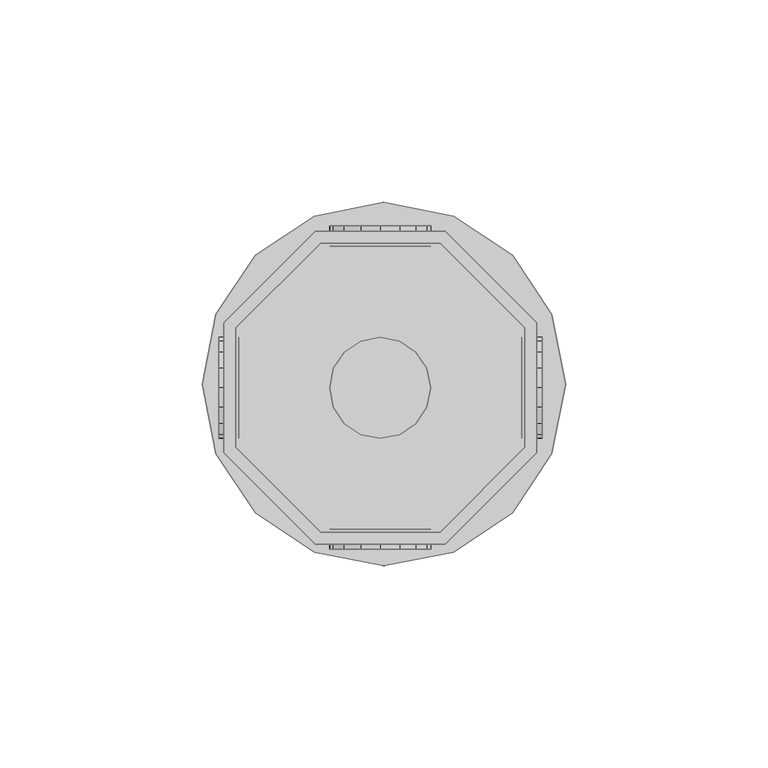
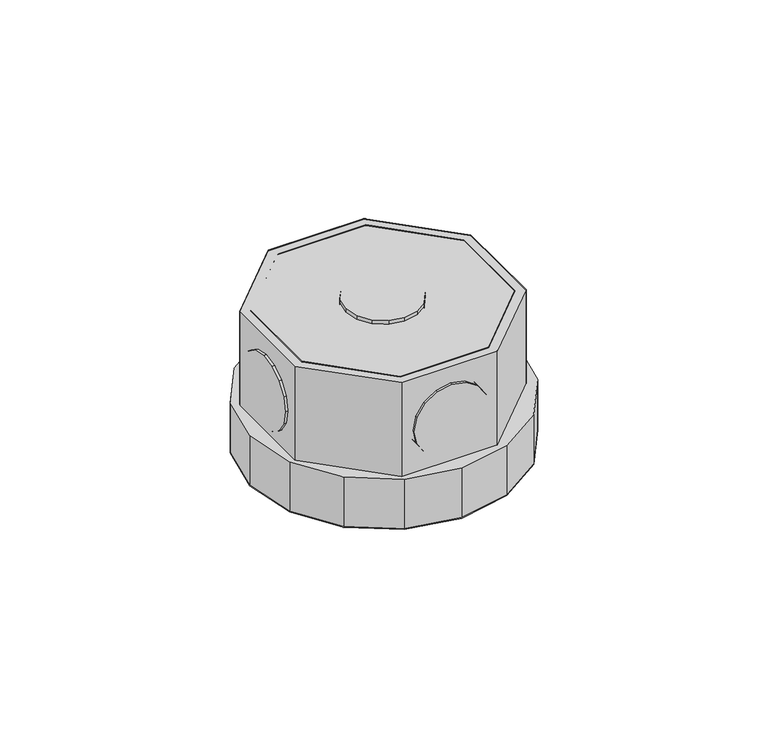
"""IFC4 building model written with IfcOpenShell, lengths in millimetres: light fixture geometry,  213486 :  213486."""

from ifc_helpers import new_model, si_unit, origin, place, context, project, spatial, triangles, source, transform, mapped, element, save


def light_fixture_b2880f95(model_context):
    return source(origin(), model_context, "Body", "Tessellation", [
        triangles([(10526.6004913, 18762.1001312, 2924.5999741), (10526.6004913, 18732.4996124, 2975.400071), (10526.6004913, 18732.4996124, 2924.5999741), (10526.6004913, 18762.1001312, 2975.400071), (10601.0994324, 18763.300058, 2924.5999741), (10601.0994324, 18731.1996918, 2975.400071), (10601.0994324, 18731.1996918, 2924.5999741), (10601.0994324, 18763.300058, 2975.400071), (10547.6003723, 18711.4997314, 2975.400071), (10547.6003723, 18711.4997314, 2924.5999741), (10578.3996552, 18785.9998352, 2924.5999741), (10578.3996552, 18785.9998352, 2975.400071), (10577.1997284, 18711.4997314, 2975.400071), (10577.1997284, 18711.4997314, 2924.5999741), (10546.3004517, 18785.9998352, 2924.5999741), (10546.3004517, 18785.9998352, 2975.400071), (10598.0996155, 18732.4996124, 2975.400071), (10598.0996155, 18732.4996124, 2924.5999741), (10523.5995117, 18763.300058, 2924.5999741), (10523.5995117, 18763.300058, 2975.400071), (10598.0996155, 18762.1001312, 2924.5999741), (10598.0996155, 18762.1001312, 2975.400071), (10523.5995117, 18731.1996918, 2975.400071), (10523.5995117, 18731.1996918, 2924.5999741), (10577.1997284, 18783.0000183, 2924.5999741), (10577.1997284, 18783.0000183, 2975.400071), (10546.3004517, 18708.4999146, 2975.400071), (10546.3004517, 18708.4999146, 2924.5999741), (10578.3996552, 18708.4999146, 2975.400071), (10547.6003723, 18783.0000183, 2975.400071), (10547.6003723, 18783.0000183, 2924.5999741), (10578.3996552, 18708.4999146, 2924.5999741), (10577.1997284, 18711.4997314, 2972.3999634), (10598.0996155, 18732.4996124, 2972.3999634), (10598.0996155, 18762.1001312, 2972.3999634), (10577.1997284, 18783.0000183, 2972.3999634), (10547.6003723, 18783.0000183, 2972.3999634), (10526.6004913, 18762.1001312, 2972.3999634), (10526.6004913, 18732.4996124, 2972.3999634), (10547.6003723, 18711.4997314, 2972.3999634), (10546.3004517, 18708.4999146, 2942.4000504), (10523.5995117, 18731.1996918, 2942.4000504), (10523.5995117, 18763.300058, 2942.4000504), (10546.3004517, 18785.9998352, 2942.4000504), (10578.3996552, 18785.9998352, 2942.4000504), (10601.0994324, 18763.300058, 2942.4000504), (10601.0994324, 18731.1996918, 2942.4000504), (10578.3996552, 18708.4999146, 2942.4000504), (10604.8003693, 18730.8997101, 2942.4000504), (10580.499527, 18706.6000305, 2942.4000504), (10595.0997986, 18716.2994385, 2942.4000504), (10563.3005768, 18703.200238, 2942.4000504), (10546.00047, 18706.6000305, 2942.4000504), (10531.4001984, 18716.2994385, 2942.4000504), (10521.6996277, 18730.8997101, 2942.4000504), (10518.2998352, 18748.1998169, 2942.4000504), (10521.6996277, 18765.3999298, 2942.4000504), (10546.00047, 18789.6996094, 2942.4000504), (10531.4001984, 18780.0002014, 2942.4000504), (10608.3001556, 18748.1998169, 2942.4000504), (10604.8003693, 18765.3999298, 2942.4000504), (10595.0997986, 18780.0002014, 2942.4000504), (10580.499527, 18789.6996094, 2942.4000504), (10563.3005768, 18793.2005585, 2942.4000504), (10580.499527, 18706.6000305, 2924.5999741), (10604.8003693, 18730.8997101, 2924.5999741), (10595.0997986, 18716.2994385, 2924.5999741), (10563.3005768, 18703.200238, 2924.5999741), (10546.00047, 18706.6000305, 2924.5999741), (10531.4001984, 18716.2994385, 2924.5999741), (10521.6996277, 18730.8997101, 2924.5999741), (10518.2998352, 18748.1998169, 2924.5999741), (10521.6996277, 18765.3999298, 2924.5999741), (10546.00047, 18789.6996094, 2924.5999741), (10531.4001984, 18780.0002014, 2924.5999741), (10608.3001556, 18748.1998169, 2924.5999741), (10604.8003693, 18765.3999298, 2924.5999741), (10595.0997986, 18780.0002014, 2924.5999741), (10580.499527, 18789.6996094, 2924.5999741), (10563.3005768, 18793.2005585, 2924.5999741), (10522.399585, 18735.7005798, 2952.6000092), (10522.399585, 18742.5001648, 2945.9001274), (10522.399585, 18738.400415, 2948.5999626), (10522.399585, 18734.799472, 2957.4000069), (10522.399585, 18747.2998718, 2944.8998978), (10522.399585, 18735.7005798, 2962.2000046), (10522.399585, 18752.0995789, 2945.9001274), (10522.399585, 18738.400415, 2966.2000511), (10522.399585, 18756.1004974, 2948.5999626), (10522.399585, 18742.5001648, 2968.8998863), (10522.399585, 18758.8003326, 2952.6000092), (10522.399585, 18747.2998718, 2969.900116), (10522.399585, 18759.8002716, 2957.4000069), (10522.399585, 18752.0995789, 2968.8998863), (10522.399585, 18758.8003326, 2962.2000046), (10522.399585, 18756.1004974, 2966.2000511), (10527.4004425, 18742.5001648, 2945.9001274), (10527.4004425, 18735.7005798, 2952.6000092), (10527.4004425, 18738.400415, 2948.5999626), (10527.4004425, 18747.2998718, 2944.8998978), (10527.4004425, 18734.799472, 2957.4000069), (10527.4004425, 18752.0995789, 2945.9001274), (10527.4004425, 18735.7005798, 2962.2000046), (10527.4004425, 18756.1004974, 2948.5999626), (10527.4004425, 18738.400415, 2966.2000511), (10527.4004425, 18742.5001648, 2968.8998863), (10527.4004425, 18758.8003326, 2952.6000092), (10527.4004425, 18747.2998718, 2969.900116), (10527.4004425, 18759.8002716, 2957.4000069), (10527.4004425, 18752.0995789, 2968.8998863), (10527.4004425, 18758.8003326, 2962.2000046), (10527.4004425, 18756.1004974, 2966.2000511), (10597.3996582, 18735.7005798, 2952.6000092), (10597.3996582, 18742.5001648, 2945.9001274), (10597.3996582, 18738.400415, 2948.5999626), (10597.3996582, 18734.799472, 2957.4000069), (10597.3996582, 18747.2998718, 2944.8998978), (10597.3996582, 18735.7005798, 2962.2000046), (10597.3996582, 18752.0995789, 2945.9001274), (10597.3996582, 18738.400415, 2966.2000511), (10597.3996582, 18756.1004974, 2948.5999626), (10597.3996582, 18742.5001648, 2968.8998863), (10597.3996582, 18758.8003326, 2952.6000092), (10597.3996582, 18747.2998718, 2969.900116), (10597.3996582, 18759.8002716, 2957.4000069), (10597.3996582, 18752.0995789, 2968.8998863), (10597.3996582, 18758.8003326, 2962.2000046), (10597.3996582, 18756.1004974, 2966.2000511), (10602.4005157, 18742.5001648, 2945.9001274), (10602.4005157, 18735.7005798, 2952.6000092), (10602.4005157, 18738.400415, 2948.5999626), (10602.4005157, 18747.2998718, 2944.8998978), (10602.4005157, 18734.799472, 2957.4000069), (10602.4005157, 18752.0995789, 2945.9001274), (10602.4005157, 18735.7005798, 2962.2000046), (10602.4005157, 18756.1004974, 2948.5999626), (10602.4005157, 18738.400415, 2966.2000511), (10602.4005157, 18742.5001648, 2968.8998863), (10602.4005157, 18758.8003326, 2952.6000092), (10602.4005157, 18747.2998718, 2969.900116), (10602.4005157, 18759.8002716, 2957.4000069), (10602.4005157, 18752.0995789, 2968.8998863), (10602.4005157, 18758.8003326, 2962.2000046), (10602.4005157, 18756.1004974, 2966.2000511), (10567.2003387, 18712.2996826, 2945.9001274), (10573.8999298, 18712.2996826, 2952.6000092), (10571.2000946, 18712.2996826, 2948.5999626), (10562.399469, 18712.2996826, 2944.8998978), (10574.8998688, 18712.2996826, 2957.4000069), (10557.599762, 18712.2996826, 2945.9001274), (10573.8999298, 18712.2996826, 2962.2000046), (10553.5000122, 18712.2996826, 2948.5999626), (10571.2000946, 18712.2996826, 2966.2000511), (10567.2003387, 18712.2996826, 2968.8998863), (10550.800177, 18712.2996826, 2952.6000092), (10562.399469, 18712.2996826, 2969.900116), (10549.9002319, 18712.2996826, 2957.4000069), (10557.599762, 18712.2996826, 2968.8998863), (10550.800177, 18712.2996826, 2962.2000046), (10553.5000122, 18712.2996826, 2966.2000511), (10573.8999298, 18707.2999878, 2952.6000092), (10567.2003387, 18707.2999878, 2945.9001274), (10571.2000946, 18707.2999878, 2948.5999626), (10574.8998688, 18707.2999878, 2957.4000069), (10562.399469, 18707.2999878, 2944.8998978), (10573.8999298, 18707.2999878, 2962.2000046), (10557.599762, 18707.2999878, 2945.9001274), (10571.2000946, 18707.2999878, 2966.2000511), (10553.5000122, 18707.2999878, 2948.5999626), (10567.2003387, 18707.2999878, 2968.8998863), (10550.800177, 18707.2999878, 2952.6000092), (10562.399469, 18707.2999878, 2969.900116), (10549.9002319, 18707.2999878, 2957.4000069), (10557.599762, 18707.2999878, 2968.8998863), (10550.800177, 18707.2999878, 2962.2000046), (10553.5000122, 18707.2999878, 2966.2000511), (10567.2003387, 18787.2997559, 2945.9001274), (10573.8999298, 18787.2997559, 2952.6000092), (10571.2000946, 18787.2997559, 2948.5999626), (10562.399469, 18787.2997559, 2944.8998978), (10574.8998688, 18787.2997559, 2957.4000069), (10557.599762, 18787.2997559, 2945.9001274), (10573.8999298, 18787.2997559, 2962.2000046), (10553.5000122, 18787.2997559, 2948.5999626), (10571.2000946, 18787.2997559, 2966.2000511), (10567.2003387, 18787.2997559, 2968.8998863), (10550.800177, 18787.2997559, 2952.6000092), (10562.399469, 18787.2997559, 2969.900116), (10549.9002319, 18787.2997559, 2957.4000069), (10557.599762, 18787.2997559, 2968.8998863), (10550.800177, 18787.2997559, 2962.2000046), (10553.5000122, 18787.2997559, 2966.2000511), (10573.8999298, 18782.300061, 2952.6000092), (10567.2003387, 18782.300061, 2945.9001274), (10571.2000946, 18782.300061, 2948.5999626), (10574.8998688, 18782.300061, 2957.4000069), (10562.399469, 18782.300061, 2944.8998978), (10573.8999298, 18782.300061, 2962.2000046), (10557.599762, 18782.300061, 2945.9001274), (10571.2000946, 18782.300061, 2966.2000511), (10553.5000122, 18782.300061, 2948.5999626), (10567.2003387, 18782.300061, 2968.8998863), (10550.800177, 18782.300061, 2952.6000092), (10562.399469, 18782.300061, 2969.900116), (10549.9002319, 18782.300061, 2957.4000069), (10557.599762, 18782.300061, 2968.8998863), (10550.800177, 18782.300061, 2962.2000046), (10553.5000122, 18782.300061, 2966.2000511), (10573.8999298, 18742.5001648, 2976.9999733), (10567.2003387, 18735.7005798, 2976.9999733), (10571.2000946, 18738.400415, 2976.9999733), (10562.399469, 18734.799472, 2976.9999733), (10574.8998688, 18747.2998718, 2976.9999733), (10557.599762, 18735.7005798, 2976.9999733), (10573.8999298, 18752.0995789, 2976.9999733), (10553.5000122, 18738.400415, 2976.9999733), (10571.2000946, 18756.1004974, 2976.9999733), (10550.800177, 18742.5001648, 2976.9999733), (10567.2003387, 18758.8003326, 2976.9999733), (10549.9002319, 18747.2998718, 2976.9999733), (10562.399469, 18759.8002716, 2976.9999733), (10550.800177, 18752.0995789, 2976.9999733), (10557.599762, 18758.8003326, 2976.9999733), (10553.5000122, 18756.1004974, 2976.9999733), (10567.2003387, 18735.7005798, 2971.9999878), (10573.8999298, 18742.5001648, 2971.9999878), (10571.2000946, 18738.400415, 2971.9999878), (10562.399469, 18734.799472, 2971.9999878), (10574.8998688, 18747.2998718, 2971.9999878), (10557.599762, 18735.7005798, 2971.9999878), (10573.8999298, 18752.0995789, 2971.9999878), (10553.5000122, 18738.400415, 2971.9999878), (10571.2000946, 18756.1004974, 2971.9999878), (10550.800177, 18742.5001648, 2971.9999878), (10567.2003387, 18758.8003326, 2971.9999878), (10549.9002319, 18747.2998718, 2971.9999878), (10562.399469, 18759.8002716, 2971.9999878), (10550.800177, 18752.0995789, 2971.9999878), (10557.599762, 18758.8003326, 2971.9999878), (10553.5000122, 18756.1004974, 2971.9999878)], [[1, 2, 3], [2, 1, 4], [5, 6, 7], [6, 5, 8], [3, 9, 10], [9, 3, 2], [11, 8, 5], [8, 11, 12], [10, 13, 14], [13, 10, 9], [15, 12, 11], [12, 15, 16], [14, 17, 18], [17, 14, 13], [19, 16, 15], [16, 19, 20], [17, 21, 18], [21, 17, 22], [23, 19, 24], [19, 23, 20], [22, 25, 21], [25, 22, 26], [27, 24, 28], [24, 27, 23], [6, 13, 29], [29, 13, 27], [27, 13, 9], [27, 9, 23], [23, 9, 2], [23, 2, 4], [23, 4, 20], [20, 4, 30], [8, 17, 6], [6, 17, 13], [17, 8, 22], [12, 22, 8], [22, 12, 26], [30, 26, 12], [16, 30, 12], [20, 30, 16], [30, 1, 31], [1, 30, 4], [6, 32, 7], [32, 6, 29], [32, 14, 7], [28, 14, 32], [14, 28, 10], [24, 10, 28], [10, 24, 3], [1, 3, 24], [19, 1, 24], [31, 1, 19], [7, 18, 5], [14, 18, 7], [5, 18, 21], [5, 21, 11], [11, 21, 25], [11, 25, 31], [11, 31, 15], [15, 31, 19], [26, 31, 25], [31, 26, 30], [29, 28, 32], [28, 29, 27], [17, 33, 34], [33, 17, 13], [35, 17, 34], [17, 35, 22], [36, 22, 35], [22, 36, 26], [37, 26, 36], [26, 37, 30], [38, 30, 37], [30, 38, 4], [2, 38, 39], [38, 2, 4], [17, 9, 13], [9, 17, 22], [9, 22, 2], [2, 22, 26], [2, 26, 4], [4, 26, 30], [13, 40, 33], [40, 13, 9], [40, 34, 33], [35, 34, 40], [35, 40, 39], [35, 39, 36], [36, 39, 38], [36, 38, 37], [9, 39, 40], [39, 9, 2], [24, 41, 28], [41, 24, 42], [19, 42, 24], [42, 19, 43], [44, 19, 15], [19, 44, 43], [45, 15, 11], [15, 45, 44], [46, 11, 5], [11, 46, 45], [47, 5, 7], [5, 47, 46], [32, 47, 7], [47, 32, 48], [28, 48, 32], [48, 28, 41], [49, 50, 51], [48, 50, 49], [50, 48, 52], [41, 52, 48], [52, 41, 53], [53, 41, 54], [42, 54, 41], [54, 42, 55], [55, 42, 43], [55, 43, 56], [56, 43, 57], [57, 43, 44], [57, 44, 58], [57, 58, 59], [47, 49, 60], [49, 47, 48], [47, 60, 46], [61, 46, 60], [46, 61, 62], [46, 62, 45], [45, 62, 63], [44, 45, 63], [44, 63, 64], [44, 64, 58], [65, 66, 67], [66, 65, 32], [68, 32, 65], [32, 68, 28], [28, 68, 69], [70, 28, 69], [28, 70, 24], [71, 24, 70], [19, 24, 71], [19, 71, 72], [73, 19, 72], [19, 73, 15], [74, 15, 73], [74, 73, 75], [76, 66, 7], [32, 7, 66], [5, 76, 7], [76, 5, 77], [77, 5, 78], [11, 78, 5], [78, 11, 79], [79, 11, 15], [79, 15, 80], [80, 15, 74], [57, 75, 73], [75, 57, 59], [56, 73, 72], [73, 56, 57], [55, 72, 71], [72, 55, 56], [54, 71, 70], [71, 54, 55], [53, 70, 69], [70, 53, 54], [52, 69, 68], [69, 52, 53], [50, 68, 65], [68, 50, 52], [51, 65, 67], [65, 51, 50], [66, 51, 67], [51, 66, 49], [76, 49, 66], [49, 76, 60], [77, 60, 76], [60, 77, 61], [78, 61, 77], [61, 78, 62], [79, 62, 78], [62, 79, 63], [80, 63, 79], [63, 80, 64], [75, 58, 74], [58, 75, 59], [74, 64, 80], [64, 74, 58], [81, 82, 83], [82, 81, 84], [85, 82, 84], [85, 84, 86], [87, 85, 86], [87, 86, 88], [87, 88, 89], [89, 88, 90], [89, 90, 91], [91, 90, 92], [91, 92, 93], [93, 92, 94], [93, 94, 95], [95, 94, 96], [97, 98, 99], [98, 97, 100], [101, 98, 100], [101, 100, 102], [103, 101, 102], [103, 102, 104], [103, 104, 105], [105, 104, 106], [106, 104, 107], [106, 107, 108], [108, 107, 109], [108, 109, 110], [110, 109, 111], [110, 111, 112], [87, 104, 102], [104, 87, 89], [85, 102, 100], [102, 85, 87], [82, 100, 97], [100, 82, 85], [83, 97, 99], [97, 83, 82], [98, 83, 99], [83, 98, 81], [101, 81, 98], [81, 101, 84], [103, 84, 101], [84, 103, 86], [105, 86, 103], [86, 105, 88], [106, 88, 105], [88, 106, 90], [108, 90, 106], [90, 108, 92], [110, 92, 108], [92, 110, 94], [112, 94, 110], [94, 112, 96], [95, 112, 111], [112, 95, 96], [93, 111, 109], [111, 93, 95], [89, 107, 104], [107, 89, 91], [91, 109, 107], [109, 91, 93], [113, 114, 115], [114, 113, 116], [117, 114, 116], [117, 116, 118], [119, 117, 118], [119, 118, 120], [119, 120, 121], [121, 120, 122], [121, 122, 123], [123, 122, 124], [123, 124, 125], [125, 124, 126], [125, 126, 127], [127, 126, 128], [129, 130, 131], [130, 129, 132], [133, 130, 132], [133, 132, 134], [135, 133, 134], [135, 134, 136], [135, 136, 137], [137, 136, 138], [138, 136, 139], [138, 139, 140], [140, 139, 141], [140, 141, 142], [142, 141, 143], [142, 143, 144], [119, 136, 134], [136, 119, 121], [117, 134, 132], [134, 117, 119], [114, 132, 129], [132, 114, 117], [115, 129, 131], [129, 115, 114], [130, 115, 131], [115, 130, 113], [133, 113, 130], [113, 133, 116], [135, 116, 133], [116, 135, 118], [137, 118, 135], [118, 137, 120], [138, 120, 137], [120, 138, 122], [140, 122, 138], [122, 140, 124], [142, 124, 140], [124, 142, 126], [144, 126, 142], [126, 144, 128], [127, 144, 143], [144, 127, 128], [125, 143, 141], [143, 125, 127], [121, 139, 136], [139, 121, 123], [123, 141, 139], [141, 123, 125], [145, 146, 147], [146, 145, 148], [149, 146, 148], [149, 148, 150], [151, 149, 150], [151, 150, 152], [151, 152, 153], [153, 152, 154], [154, 152, 155], [154, 155, 156], [156, 155, 157], [156, 157, 158], [158, 157, 159], [158, 159, 160], [161, 162, 163], [162, 161, 164], [165, 162, 164], [165, 164, 166], [167, 165, 166], [167, 166, 168], [169, 167, 168], [169, 168, 170], [169, 170, 171], [171, 170, 172], [171, 172, 173], [173, 172, 174], [173, 174, 175], [175, 174, 176], [158, 176, 174], [176, 158, 160], [156, 174, 172], [174, 156, 158], [154, 172, 170], [172, 154, 156], [153, 170, 168], [170, 153, 154], [151, 168, 166], [168, 151, 153], [149, 166, 164], [166, 149, 151], [146, 164, 161], [164, 146, 149], [147, 161, 163], [161, 147, 146], [162, 147, 163], [147, 162, 145], [165, 145, 162], [145, 165, 148], [167, 148, 165], [148, 167, 150], [169, 150, 167], [150, 169, 152], [171, 152, 169], [152, 171, 155], [173, 155, 171], [155, 173, 157], [176, 159, 175], [159, 176, 160], [175, 157, 173], [157, 175, 159], [177, 178, 179], [178, 177, 180], [181, 178, 180], [181, 180, 182], [183, 181, 182], [183, 182, 184], [183, 184, 185], [185, 184, 186], [186, 184, 187], [186, 187, 188], [188, 187, 189], [188, 189, 190], [190, 189, 191], [190, 191, 192], [193, 194, 195], [194, 193, 196], [197, 194, 196], [197, 196, 198], [199, 197, 198], [199, 198, 200], [201, 199, 200], [201, 200, 202], [201, 202, 203], [203, 202, 204], [203, 204, 205], [205, 204, 206], [205, 206, 207], [207, 206, 208], [190, 208, 206], [208, 190, 192], [188, 206, 204], [206, 188, 190], [186, 204, 202], [204, 186, 188], [185, 202, 200], [202, 185, 186], [183, 200, 198], [200, 183, 185], [181, 198, 196], [198, 181, 183], [178, 196, 193], [196, 178, 181], [179, 193, 195], [193, 179, 178], [194, 179, 195], [179, 194, 177], [197, 177, 194], [177, 197, 180], [199, 180, 197], [180, 199, 182], [201, 182, 199], [182, 201, 184], [203, 184, 201], [184, 203, 187], [205, 187, 203], [187, 205, 189], [208, 191, 207], [191, 208, 192], [207, 189, 205], [189, 207, 191], [209, 210, 211], [212, 210, 209], [212, 209, 213], [214, 212, 213], [214, 213, 215], [216, 214, 215], [216, 215, 217], [216, 217, 218], [218, 217, 219], [218, 219, 220], [220, 219, 221], [220, 221, 222], [222, 221, 223], [222, 223, 224], [225, 226, 227], [226, 225, 228], [229, 226, 228], [229, 228, 230], [231, 229, 230], [231, 230, 232], [231, 232, 233], [233, 232, 234], [233, 234, 235], [235, 234, 236], [235, 236, 237], [237, 236, 238], [237, 238, 239], [239, 238, 240], [222, 240, 238], [240, 222, 224], [220, 238, 236], [238, 220, 222], [218, 236, 234], [236, 218, 220], [216, 234, 232], [234, 216, 218], [214, 232, 230], [232, 214, 216], [212, 230, 228], [230, 212, 214], [210, 228, 225], [228, 210, 212], [211, 225, 227], [225, 211, 210], [226, 211, 227], [211, 226, 209], [229, 209, 226], [209, 229, 213], [231, 213, 229], [213, 231, 215], [233, 215, 231], [215, 233, 217], [235, 217, 233], [217, 235, 219], [237, 219, 235], [219, 237, 221], [240, 223, 239], [223, 240, 224], [239, 221, 237], [221, 239, 223]], closed=False),
    ])


if __name__ == "__main__":
    model = new_model("IFC4")
    model_context = context("Model", 3, world=origin())
    ifc_project = project(units=[si_unit("LENGTHUNIT", "METRE", prefix="MILLI")], contexts=[model_context])
    site = spatial("IfcSite", under=ifc_project)
    building = spatial("IfcBuilding", under=site)
    placement = place(None, origin())
    light_fixture_shape = light_fixture_b2880f95(model_context)
    element("IfcLightFixture", 1, ObjectType=" 213486 :  213486", at=placement, inside=building, context=model_context, shape_type="MappedRepresentation", body=[
        mapped(light_fixture_shape, transform((0.0, 0.0, 0.0), x_axis=(1.0, 0.0, 0.0), y_axis=(0.0, 1.0, 0.0), z_axis=(0.0, 0.0, 1.0))),
    ])
    save(model, "model.ifc")
